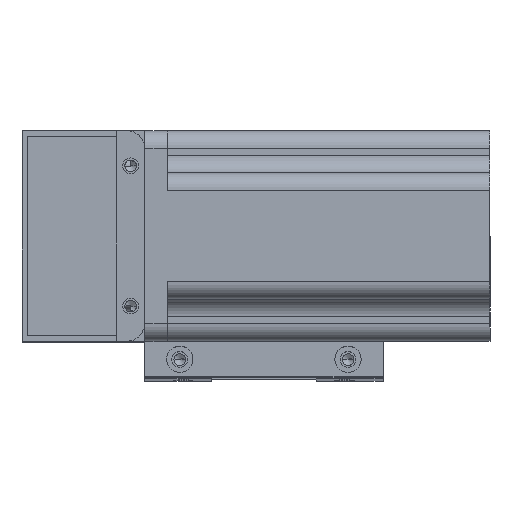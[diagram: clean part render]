
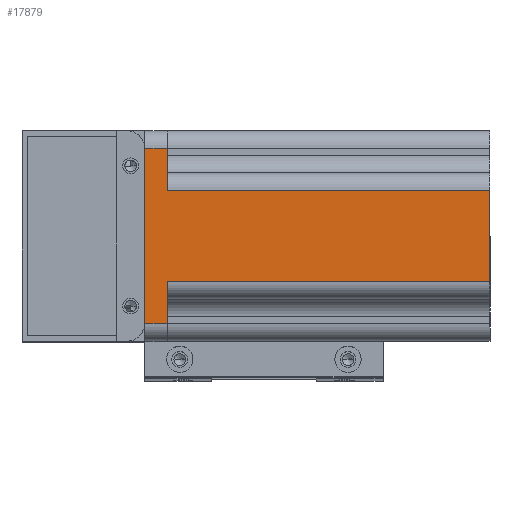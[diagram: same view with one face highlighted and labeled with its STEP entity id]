
A CAD part, top view. The second image highlights one B-rep face of the part: STEP entity #17879.
In plain terms, the highlighted planar face has unit normal (0, 0, 1) as drawn and (-1, 0, 0) by its records, which use the part's own axes.
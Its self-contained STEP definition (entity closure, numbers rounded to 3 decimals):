
#14 = EDGE_CURVE ( 'NONE', #24600, #4393, #17899, .T. ) ;
#934 = CARTESIAN_POINT ( 'NONE',  ( -30., -25., 0. ) ) ;
#1179 = LINE ( 'NONE', #20836, #16317 ) ;
#1202 = CARTESIAN_POINT ( 'NONE',  ( -30., 13., -92. ) ) ;
#1886 = VERTEX_POINT ( 'NONE', #22791 ) ;
#2317 = DIRECTION ( 'NONE',  ( 0., -1., 0. ) ) ;
#2447 = LINE ( 'NONE', #25596, #26262 ) ;
#2510 = CARTESIAN_POINT ( 'NONE',  ( -30., 25., 0. ) ) ;
#2673 = CARTESIAN_POINT ( 'NONE',  ( -30., -25., 0. ) ) ;
#3056 = VECTOR ( 'NONE', #2317, 1000. ) ;
#3389 = LINE ( 'NONE', #2673, #3056 ) ;
#3788 = CARTESIAN_POINT ( 'NONE',  ( -30., -18., -92. ) ) ;
#4084 = ORIENTED_EDGE ( 'NONE', *, *, #20680, .F. ) ;
#4214 = EDGE_CURVE ( 'NONE', #20813, #1886, #4528, .T. ) ;
#4393 = VERTEX_POINT ( 'NONE', #1202 ) ;
#4528 = LINE ( 'NONE', #12421, #14820 ) ;
#5153 = ORIENTED_EDGE ( 'NONE', *, *, #12514, .T. ) ;
#5698 = VERTEX_POINT ( 'NONE', #13167 ) ;
#6365 = LINE ( 'NONE', #934, #16346 ) ;
#6440 = VECTOR ( 'NONE', #24923, 1000. ) ;
#6747 = CARTESIAN_POINT ( 'NONE',  ( -30., -25., 6.5 ) ) ;
#7207 = VERTEX_POINT ( 'NONE', #15866 ) ;
#7855 = VECTOR ( 'NONE', #20727, 1000. ) ;
#8145 = ORIENTED_EDGE ( 'NONE', *, *, #22514, .T. ) ;
#8315 = CARTESIAN_POINT ( 'NONE',  ( -30., -13., -92. ) ) ;
#8578 = CARTESIAN_POINT ( 'NONE',  ( -30., 13., 6.5 ) ) ;
#8626 = AXIS2_PLACEMENT_3D ( 'NONE', #6747, #21154, #20978 ) ;
#9474 = EDGE_CURVE ( 'NONE', #24600, #9774, #2447, .T. ) ;
#9774 = VERTEX_POINT ( 'NONE', #22004 ) ;
#9833 = EDGE_CURVE ( 'NONE', #17838, #7207, #3389, .T. ) ;
#11326 = DIRECTION ( 'NONE',  ( 0., 0., 1. ) ) ;
#11619 = LINE ( 'NONE', #8578, #6440 ) ;
#12421 = CARTESIAN_POINT ( 'NONE',  ( -30., -25., 6.5 ) ) ;
#12514 = EDGE_CURVE ( 'NONE', #7207, #4393, #11619, .T. ) ;
#12624 = CARTESIAN_POINT ( 'NONE',  ( -30., -25., 6.5 ) ) ;
#13167 = CARTESIAN_POINT ( 'NONE',  ( -30., -25., 0. ) ) ;
#14820 = VECTOR ( 'NONE', #22837, 1000. ) ;
#14892 = ORIENTED_EDGE ( 'NONE', *, *, #9833, .T. ) ;
#15256 = LINE ( 'NONE', #12624, #7855 ) ;
#15282 = CARTESIAN_POINT ( 'NONE',  ( -30., 25., 6.5 ) ) ;
#15866 = CARTESIAN_POINT ( 'NONE',  ( -30., 13., 0. ) ) ;
#16171 = FACE_OUTER_BOUND ( 'NONE', #17504, .T. ) ;
#16317 = VECTOR ( 'NONE', #23051, 1000. ) ;
#16346 = VECTOR ( 'NONE', #21552, 1000. ) ;
#16960 = VECTOR ( 'NONE', #24118, 1000. ) ;
#17005 = PLANE ( 'NONE',  #8626 ) ;
#17504 = EDGE_LOOP ( 'NONE', ( #25630, #17578, #8145, #4084, #20091, #18866, #14892, #5153 ) ) ;
#17578 = ORIENTED_EDGE ( 'NONE', *, *, #9474, .T. ) ;
#17838 = VERTEX_POINT ( 'NONE', #2510 ) ;
#17879 = ADVANCED_FACE ( 'NONE', ( #16171 ), #17005, .F. ) ;
#17899 = LINE ( 'NONE', #3788, #16960 ) ;
#18866 = ORIENTED_EDGE ( 'NONE', *, *, #23060, .T. ) ;
#20091 = ORIENTED_EDGE ( 'NONE', *, *, #4214, .F. ) ;
#20680 = EDGE_CURVE ( 'NONE', #1886, #5698, #15256, .T. ) ;
#20727 = DIRECTION ( 'NONE',  ( 0., 0., -1. ) ) ;
#20813 = VERTEX_POINT ( 'NONE', #15282 ) ;
#20836 = CARTESIAN_POINT ( 'NONE',  ( -30., 25., 6.5 ) ) ;
#20978 = DIRECTION ( 'NONE',  ( 0., 0., -1. ) ) ;
#21154 = DIRECTION ( 'NONE',  ( 1., 0., 0. ) ) ;
#21552 = DIRECTION ( 'NONE',  ( 0., -1., 0. ) ) ;
#22004 = CARTESIAN_POINT ( 'NONE',  ( -30., -13., 0. ) ) ;
#22514 = EDGE_CURVE ( 'NONE', #9774, #5698, #6365, .T. ) ;
#22791 = CARTESIAN_POINT ( 'NONE',  ( -30., -25., 6.5 ) ) ;
#22837 = DIRECTION ( 'NONE',  ( 0., -1., 0. ) ) ;
#23051 = DIRECTION ( 'NONE',  ( 0., 0., -1. ) ) ;
#23060 = EDGE_CURVE ( 'NONE', #20813, #17838, #1179, .T. ) ;
#24118 = DIRECTION ( 'NONE',  ( 0., 1., 0. ) ) ;
#24600 = VERTEX_POINT ( 'NONE', #8315 ) ;
#24923 = DIRECTION ( 'NONE',  ( 0., 0., -1. ) ) ;
#25596 = CARTESIAN_POINT ( 'NONE',  ( -30., -13., 6.5 ) ) ;
#25630 = ORIENTED_EDGE ( 'NONE', *, *, #14, .F. ) ;
#26262 = VECTOR ( 'NONE', #11326, 1000. ) ;
